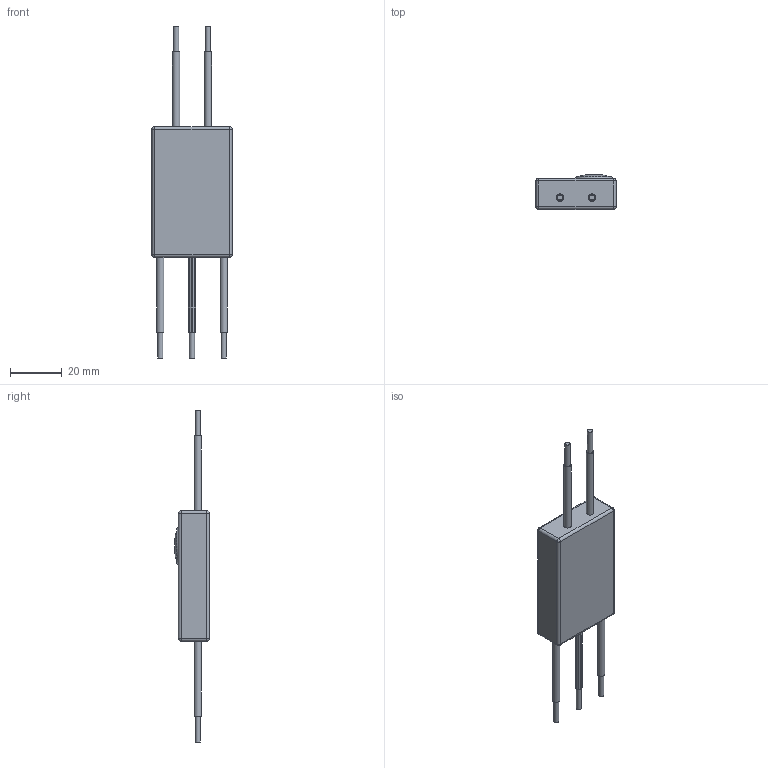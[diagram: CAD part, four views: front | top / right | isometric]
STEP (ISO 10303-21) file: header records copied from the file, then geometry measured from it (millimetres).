
FILE_DESCRIPTION(/* description */ (''),/* implementation_level */ '2;1');
FILE_NAME(/* name */ 'DTNVE 1_CIB.stp',/* time_stamp */ '2024-05-07T06:58:02+02:00',/* author */ ('miko'),/* organization */ (''),/* preprocessor_version */ 'ST-DEVELOPER v20',/* originating_system */ 'Autodesk Inventor 2024',/* authorisation */ '');
FILE_SCHEMA (('AUTOMOTIVE_DESIGN { 1 0 10303 214 3 1 1 }'));
Length unit declared in the file: millimetre
Products named in the file (2): DTNVE 1_CIB - RENDER; DTNVE 1_CIB
Assembly tree (1 placements, depth 2):
  DTNVE 1_CIB - RENDER
    DTNVE 1_CIB
Bounding box: 31 x 13.5 x 128.5 mm (x, y, z)
Volume: 19889.1 mm3; surface area: 6606.8 mm2
Topology: 1 solids, 1 shells, 88 faces, 194 edges, 119 vertices
Faces by surface type: plane 41, cylinder 37, sphere 8, torus 1, cone 1
Full cylindrical faces by diameter (mm): 2 x5, 2.8 x4, 14.3 x1
Entity records: 2563 total; most frequent: DIRECTION 454, CARTESIAN_POINT 404, ORIENTED_EDGE 388, EDGE_CURVE 194, AXIS2_PLACEMENT_3D 169, VERTEX_POINT 119, LINE 116, VECTOR 116
